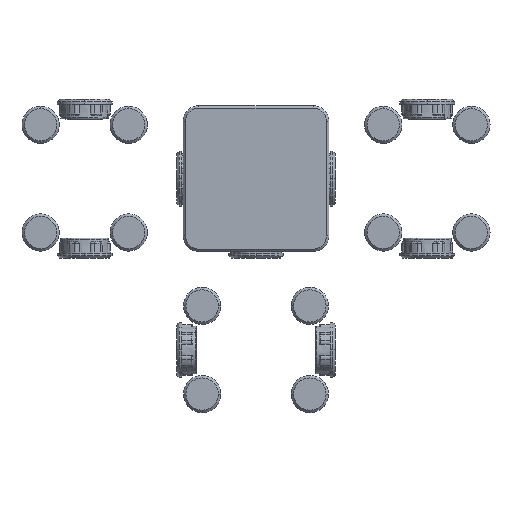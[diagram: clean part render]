
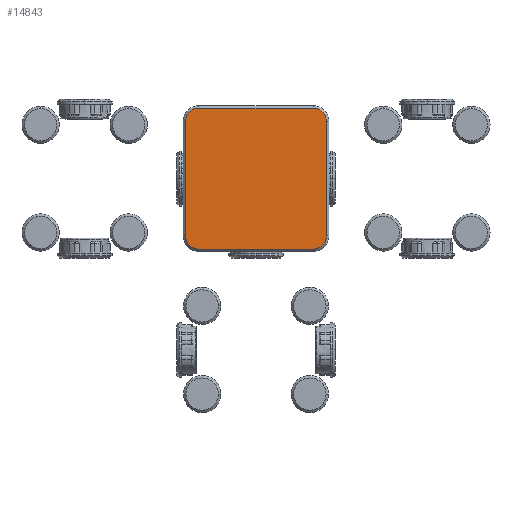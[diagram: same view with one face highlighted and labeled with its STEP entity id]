
A CAD part, top view. The second image highlights one B-rep face of the part: STEP entity #14843.
In plain terms, the highlighted planar face has unit normal (0, 0, 1) as drawn and (-1, 0, 0) by its records, which use the part's own axes.
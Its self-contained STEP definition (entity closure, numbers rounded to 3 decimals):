
#3163=CARTESIAN_POINT('',(-1.5,-11.7,11.7));
#3164=DIRECTION('',(-1.,0.,0.));
#3165=DIRECTION('',(0.,-1.,0.));
#3166=AXIS2_PLACEMENT_3D('',#3163,#3164,#3165);
#3171=DIRECTION('',(0.,0.,1.));
#3172=VECTOR('',#3171,23.4);
#3173=CARTESIAN_POINT('',(-1.5,-14.4,
-11.7));
#3174=LINE('',#3173,#3172);
#3178=CARTESIAN_POINT('',(-1.5,-11.7,-11.7));
#3179=DIRECTION('',(-1.,0.,0.));
#3180=DIRECTION('',(0.,0.,-1.));
#3181=AXIS2_PLACEMENT_3D('',#3178,#3179,#3180);
#3186=DIRECTION('',(0.,-1.,0.));
#3187=VECTOR('',#3186,23.4);
#3188=CARTESIAN_POINT('',(-1.5,11.7,
-14.4));
#3189=LINE('',#3188,#3187);
#3193=CARTESIAN_POINT('',(-1.5,11.7,-11.7));
#3194=DIRECTION('',(-1.,0.,0.));
#3195=DIRECTION('',(0.,1.,0.));
#3196=AXIS2_PLACEMENT_3D('',#3193,#3194,#3195);
#3201=DIRECTION('',(0.,0.,-1.));
#3202=VECTOR('',#3201,23.4);
#3203=CARTESIAN_POINT('',(-1.5,14.4,11.7));
#3204=LINE('',#3203,#3202);
#3208=CARTESIAN_POINT('',(-1.5,11.7,11.7));
#3209=DIRECTION('',(-1.,0.,0.));
#3210=DIRECTION('',(0.,0.,1.));
#3211=AXIS2_PLACEMENT_3D('',#3208,#3209,#3210);
#3216=DIRECTION('',(0.,1.,0.));
#3217=VECTOR('',#3216,23.4);
#3218=CARTESIAN_POINT('',(-1.5,-11.7,
14.4));
#3219=LINE('',#3218,#3217);
#9581=CARTESIAN_POINT('',(-1.5,-14.4,11.7));
#9582=CARTESIAN_POINT('',(-1.5,-11.7,14.4));
#9583=VERTEX_POINT('',#9581);
#9584=VERTEX_POINT('',#9582);
#9585=CARTESIAN_POINT('',(-1.5,11.7,14.4));
#9586=VERTEX_POINT('',#9585);
#9587=CARTESIAN_POINT('',(-1.5,14.4,11.7));
#9588=VERTEX_POINT('',#9587);
#9589=CARTESIAN_POINT('',(-1.5,14.4,
-11.7));
#9590=VERTEX_POINT('',#9589);
#9591=CARTESIAN_POINT('',(-1.5,11.7,-14.4));
#9592=VERTEX_POINT('',#9591);
#9593=CARTESIAN_POINT('',(-1.5,-11.7,
-14.4));
#9594=VERTEX_POINT('',#9593);
#9595=CARTESIAN_POINT('',(-1.5,-14.4,-11.7));
#9596=VERTEX_POINT('',#9595);
#14821=CARTESIAN_POINT('',(-1.5,0.,0.));
#14822=DIRECTION('',(1.,0.,0.));
#14823=DIRECTION('',(0.,0.,-1.));
#14824=AXIS2_PLACEMENT_3D('',#14821,#14822,#14823);
#14825=PLANE('',#14824);
#14827=ORIENTED_EDGE('',*,*,#14826,.F.);
#14829=ORIENTED_EDGE('',*,*,#14828,.F.);
#14831=ORIENTED_EDGE('',*,*,#14830,.F.);
#14832=ORIENTED_EDGE('',*,*,#14811,.F.);
#14834=ORIENTED_EDGE('',*,*,#14833,.F.);
#14836=ORIENTED_EDGE('',*,*,#14835,.F.);
#14838=ORIENTED_EDGE('',*,*,#14837,.F.);
#14840=ORIENTED_EDGE('',*,*,#14839,.F.);
#14841=EDGE_LOOP('',(#14827,#14829,#14831,#14832,#14834,#14836,#14838,#14840));
#14842=FACE_OUTER_BOUND('',#14841,.F.);
#3167=CIRCLE('',#3166,2.7);
#3182=CIRCLE('',#3181,2.7);
#3197=CIRCLE('',#3196,2.7);
#3212=CIRCLE('',#3211,2.7);
#14811=EDGE_CURVE('',#9592,#9594,#3189,.T.);
#14826=EDGE_CURVE('',#9583,#9584,#3167,.T.);
#14828=EDGE_CURVE('',#9596,#9583,#3174,.T.);
#14830=EDGE_CURVE('',#9594,#9596,#3182,.T.);
#14833=EDGE_CURVE('',#9590,#9592,#3197,.T.);
#14835=EDGE_CURVE('',#9588,#9590,#3204,.T.);
#14837=EDGE_CURVE('',#9586,#9588,#3212,.T.);
#14839=EDGE_CURVE('',#9584,#9586,#3219,.T.);
#14843=ADVANCED_FACE('',(#14842),#14825,.F.);
